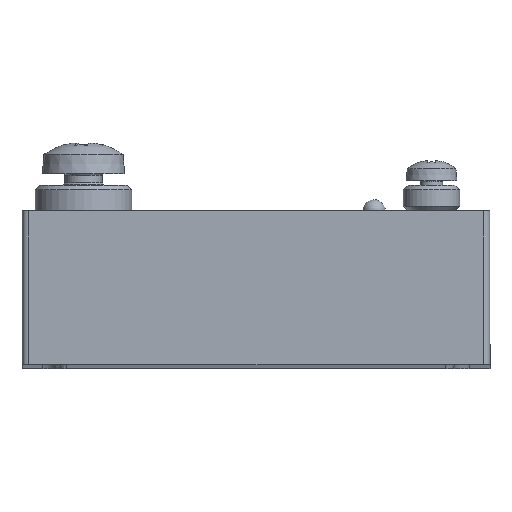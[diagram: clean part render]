
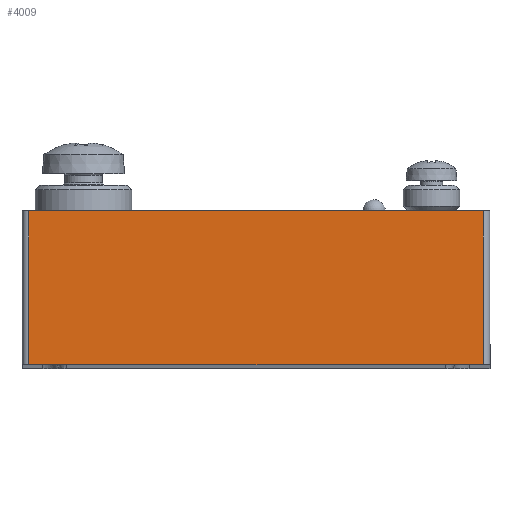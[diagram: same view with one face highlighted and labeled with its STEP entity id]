
A CAD part, front view. The second image highlights one B-rep face of the part: STEP entity #4009.
In plain terms, the highlighted planar face has unit normal (0, -1, 0).
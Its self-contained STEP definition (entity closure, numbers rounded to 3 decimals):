
#323=LINE('',#6721,#589);
#360=LINE('',#6825,#626);
#361=LINE('',#6828,#627);
#362=LINE('',#6829,#628);
#589=VECTOR('',#5381,56.4);
#626=VECTOR('',#5462,19.1);
#627=VECTOR('',#5465,56.4);
#628=VECTOR('',#5466,19.1);
#759=PLANE('',#4422);
#1111=FACE_OUTER_BOUND('',#1359,.T.);
#1359=EDGE_LOOP('',(#3485,#3486,#3487,#3488));
#1906=VERTEX_POINT('',#6718);
#1907=VERTEX_POINT('',#6720);
#1934=VERTEX_POINT('',#6823);
#1935=VERTEX_POINT('',#6827);
#2423=EDGE_CURVE('',#1906,#1907,#323,.T.);
#2468=EDGE_CURVE('',#1934,#1906,#360,.T.);
#2469=EDGE_CURVE('',#1935,#1934,#361,.T.);
#2470=EDGE_CURVE('',#1935,#1907,#362,.T.);
#3485=ORIENTED_EDGE('',*,*,#2423,.F.);
#3486=ORIENTED_EDGE('',*,*,#2468,.F.);
#3487=ORIENTED_EDGE('',*,*,#2469,.F.);
#3488=ORIENTED_EDGE('',*,*,#2470,.T.);
#4009=ADVANCED_FACE('',(#1111),#759,.T.);
#4422=AXIS2_PLACEMENT_3D('',#6826,#5463,#5464);
#5381=DIRECTION('',(-1.,0.,0.));
#5462=DIRECTION('',(0.,0.,-1.));
#5463=DIRECTION('center_axis',(0.,-1.,0.));
#5464=DIRECTION('ref_axis',(0.,0.,-1.));
#5465=DIRECTION('',(1.,0.,0.));
#5466=DIRECTION('',(0.,0.,-1.));
#6718=CARTESIAN_POINT('',(28.17,-22.25,0.5));
#6720=CARTESIAN_POINT('',(-28.23,-22.25,0.5));
#6721=CARTESIAN_POINT('',(28.97,-22.25,0.5));
#6823=CARTESIAN_POINT('',(28.17,-22.25,19.6));
#6825=CARTESIAN_POINT('',(28.17,-22.25,19.5));
#6826=CARTESIAN_POINT('Origin',(-28.23,-22.25,19.5));
#6827=CARTESIAN_POINT('',(-28.23,-22.25,19.6));
#6828=CARTESIAN_POINT('',(-28.23,-22.25,19.6));
#6829=CARTESIAN_POINT('',(-28.23,-22.25,19.5));
